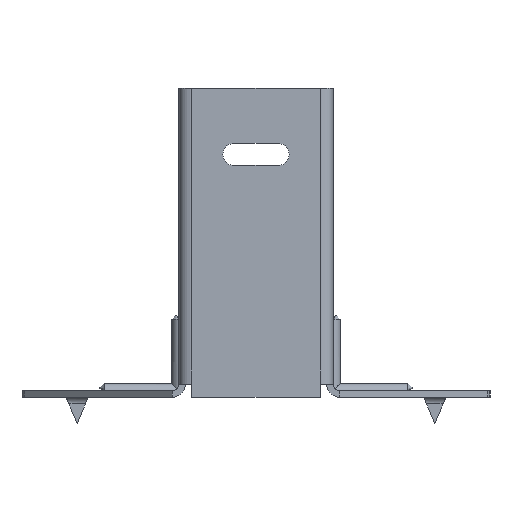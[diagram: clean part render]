
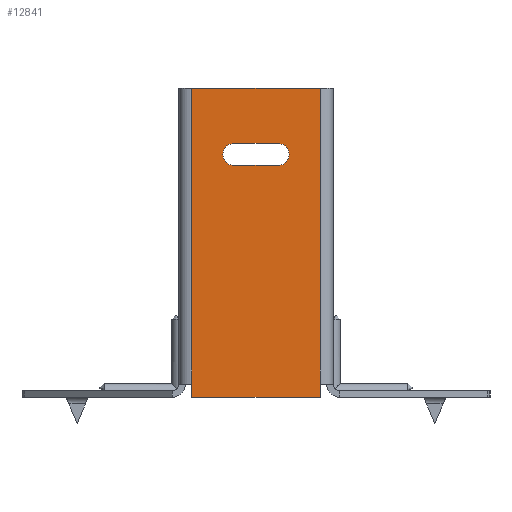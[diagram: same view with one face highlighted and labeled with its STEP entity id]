
A CAD part, front view. The second image highlights one B-rep face of the part: STEP entity #12841.
In plain terms, the highlighted planar face has unit normal (0, -1, 0).
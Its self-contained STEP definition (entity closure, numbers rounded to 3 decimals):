
#149 = EDGE_CURVE ( 'NONE', #11534, #8895, #10620, .T. ) ;
#495 = ORIENTED_EDGE ( 'NONE', *, *, #5949, .F. ) ;
#518 = ORIENTED_EDGE ( 'NONE', *, *, #2775, .T. ) ;
#532 = CARTESIAN_POINT ( 'NONE',  ( 0., 0., 0. ) ) ;
#759 = CARTESIAN_POINT ( 'NONE',  ( -14.5, 0., 0. ) ) ;
#879 = CARTESIAN_POINT ( 'NONE',  ( 14.5, 0., -70. ) ) ;
#909 = VERTEX_POINT ( 'NONE', #2183 ) ;
#958 = CARTESIAN_POINT ( 'NONE',  ( -5., 0., -12.5 ) ) ;
#1307 = VERTEX_POINT ( 'NONE', #6775 ) ;
#1356 = CARTESIAN_POINT ( 'NONE',  ( 14.5, 0., -67. ) ) ;
#1389 = AXIS2_PLACEMENT_3D ( 'NONE', #532, #12731, #11658 ) ;
#1518 = CARTESIAN_POINT ( 'NONE',  ( -5., 0., -17.5 ) ) ;
#1607 = DIRECTION ( 'NONE',  ( 1., 0., 0. ) ) ;
#2085 = PLANE ( 'NONE',  #1389 ) ;
#2175 = VECTOR ( 'NONE', #14076, 1000. ) ;
#2183 = CARTESIAN_POINT ( 'NONE',  ( -14.5, 0., -70. ) ) ;
#2227 = VECTOR ( 'NONE', #5076, 1000. ) ;
#2750 = CARTESIAN_POINT ( 'NONE',  ( 5., 0., -17.5 ) ) ;
#2775 = EDGE_CURVE ( 'NONE', #12950, #909, #15317, .T. ) ;
#2862 = CARTESIAN_POINT ( 'NONE',  ( -16., 0., 0. ) ) ;
#3110 = VERTEX_POINT ( 'NONE', #958 ) ;
#3267 = ORIENTED_EDGE ( 'NONE', *, *, #7458, .F. ) ;
#3414 = DIRECTION ( 'NONE',  ( 0., 1., 0. ) ) ;
#3952 = LINE ( 'NONE', #12442, #2227 ) ;
#4097 = CARTESIAN_POINT ( 'NONE',  ( -5., 0., -17.5 ) ) ;
#4170 = EDGE_CURVE ( 'NONE', #3110, #11534, #3952, .T. ) ;
#4273 = EDGE_LOOP ( 'NONE', ( #8094, #518, #495, #10715, #4624, #3267 ) ) ;
#4274 = CARTESIAN_POINT ( 'NONE',  ( -14.5, 0., 0. ) ) ;
#4477 = VERTEX_POINT ( 'NONE', #759 ) ;
#4516 = LINE ( 'NONE', #4097, #12202 ) ;
#4624 = ORIENTED_EDGE ( 'NONE', *, *, #10342, .T. ) ;
#4917 = EDGE_CURVE ( 'NONE', #4477, #12950, #7585, .T. ) ;
#5076 = DIRECTION ( 'NONE',  ( 1., 0., 0. ) ) ;
#5611 = LINE ( 'NONE', #11798, #11151 ) ;
#5882 = EDGE_LOOP ( 'NONE', ( #15376, #15772, #15039, #12622 ) ) ;
#5949 = EDGE_CURVE ( 'NONE', #1307, #909, #7175, .T. ) ;
#6251 = EDGE_CURVE ( 'NONE', #10016, #3110, #14265, .T. ) ;
#6775 = CARTESIAN_POINT ( 'NONE',  ( 14.5, 0., -70. ) ) ;
#6829 = CARTESIAN_POINT ( 'NONE',  ( -14.5, 0., 0. ) ) ;
#6995 = CARTESIAN_POINT ( 'NONE',  ( 5., 0., -15. ) ) ;
#7053 = DIRECTION ( 'NONE',  ( 0., 0., 1. ) ) ;
#7067 = CARTESIAN_POINT ( 'NONE',  ( 14.5, 0., 0. ) ) ;
#7148 = CARTESIAN_POINT ( 'NONE',  ( -14.5, 0., -67. ) ) ;
#7175 = LINE ( 'NONE', #9072, #2175 ) ;
#7458 = EDGE_CURVE ( 'NONE', #4477, #9715, #8260, .T. ) ;
#7497 = VECTOR ( 'NONE', #10872, 1000. ) ;
#7585 = LINE ( 'NONE', #6829, #13140 ) ;
#8094 = ORIENTED_EDGE ( 'NONE', *, *, #4917, .T. ) ;
#8260 = LINE ( 'NONE', #2862, #9416 ) ;
#8433 = DIRECTION ( 'NONE',  ( 0., 0., 1. ) ) ;
#8480 = CARTESIAN_POINT ( 'NONE',  ( -5., 0., -15. ) ) ;
#8643 = CARTESIAN_POINT ( 'NONE',  ( 5., 0., -12.5 ) ) ;
#8874 = DIRECTION ( 'NONE',  ( 0., 0., -1. ) ) ;
#8895 = VERTEX_POINT ( 'NONE', #2750 ) ;
#8945 = VERTEX_POINT ( 'NONE', #1356 ) ;
#9072 = CARTESIAN_POINT ( 'NONE',  ( -16., 0., -70. ) ) ;
#9416 = VECTOR ( 'NONE', #1607, 1000. ) ;
#9707 = FACE_BOUND ( 'NONE', #5882, .T. ) ;
#9714 = EDGE_CURVE ( 'NONE', #1307, #8945, #5611, .T. ) ;
#9715 = VERTEX_POINT ( 'NONE', #7067 ) ;
#10016 = VERTEX_POINT ( 'NONE', #1518 ) ;
#10097 = AXIS2_PLACEMENT_3D ( 'NONE', #8480, #3414, #8433 ) ;
#10312 = DIRECTION ( 'NONE',  ( -1., 0., 0. ) ) ;
#10342 = EDGE_CURVE ( 'NONE', #8945, #9715, #10765, .T. ) ;
#10477 = DIRECTION ( 'NONE',  ( 0., 0., -1. ) ) ;
#10604 = AXIS2_PLACEMENT_3D ( 'NONE', #6995, #15583, #7053 ) ;
#10620 = CIRCLE ( 'NONE', #10604, 2.5 ) ;
#10715 = ORIENTED_EDGE ( 'NONE', *, *, #9714, .T. ) ;
#10765 = LINE ( 'NONE', #879, #7497 ) ;
#10872 = DIRECTION ( 'NONE',  ( 0., 0., 1. ) ) ;
#11151 = VECTOR ( 'NONE', #11848, 1000. ) ;
#11261 = FACE_OUTER_BOUND ( 'NONE', #4273, .T. ) ;
#11534 = VERTEX_POINT ( 'NONE', #8643 ) ;
#11658 = DIRECTION ( 'NONE',  ( 0., 0., 1. ) ) ;
#11798 = CARTESIAN_POINT ( 'NONE',  ( 14.5, 0., -70. ) ) ;
#11848 = DIRECTION ( 'NONE',  ( 0., 0., 1. ) ) ;
#12202 = VECTOR ( 'NONE', #10312, 1000. ) ;
#12442 = CARTESIAN_POINT ( 'NONE',  ( -5., 0., -12.5 ) ) ;
#12622 = ORIENTED_EDGE ( 'NONE', *, *, #149, .T. ) ;
#12731 = DIRECTION ( 'NONE',  ( 0., 1., 0. ) ) ;
#12841 = ADVANCED_FACE ( 'NONE', ( #9707, #11261 ), #2085, .F. ) ;
#12950 = VERTEX_POINT ( 'NONE', #7148 ) ;
#13140 = VECTOR ( 'NONE', #10477, 1000. ) ;
#14055 = EDGE_CURVE ( 'NONE', #8895, #10016, #4516, .T. ) ;
#14076 = DIRECTION ( 'NONE',  ( -1., 0., 0. ) ) ;
#14265 = CIRCLE ( 'NONE', #10097, 2.5 ) ;
#15039 = ORIENTED_EDGE ( 'NONE', *, *, #4170, .T. ) ;
#15121 = VECTOR ( 'NONE', #8874, 1000. ) ;
#15317 = LINE ( 'NONE', #4274, #15121 ) ;
#15376 = ORIENTED_EDGE ( 'NONE', *, *, #14055, .T. ) ;
#15583 = DIRECTION ( 'NONE',  ( 0., 1., 0. ) ) ;
#15772 = ORIENTED_EDGE ( 'NONE', *, *, #6251, .T. ) ;
